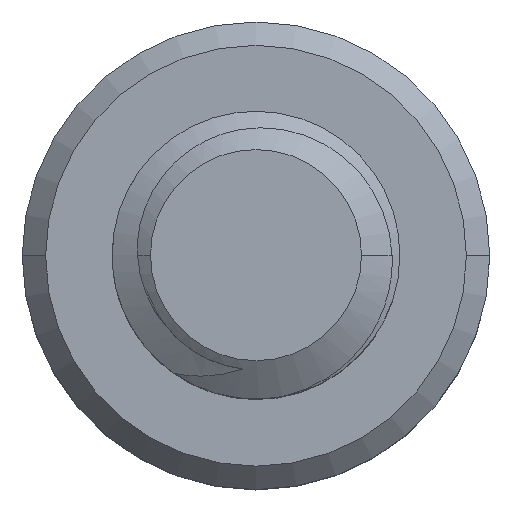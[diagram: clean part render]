
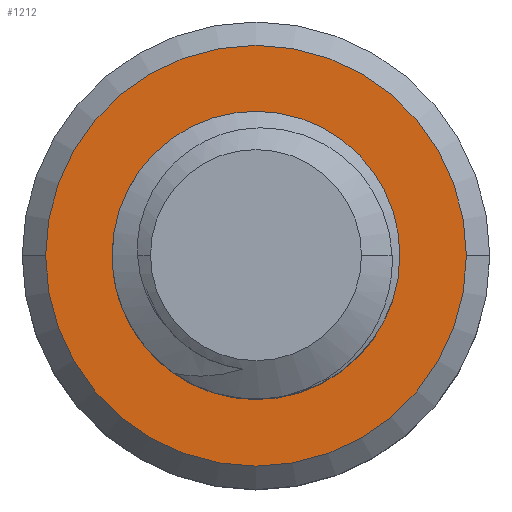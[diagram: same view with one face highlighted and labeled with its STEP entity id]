
A CAD part, top view. The second image highlights one B-rep face of the part: STEP entity #1212.
In plain terms, the highlighted planar face has unit normal (0, 0, 1).
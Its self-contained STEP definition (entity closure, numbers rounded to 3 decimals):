
#3 = VERTEX_POINT ( 'NONE', #1861 ) ;
#20 = CARTESIAN_POINT ( 'NONE',  ( 0., -3.188, -10. ) ) ;
#65 = B_SPLINE_CURVE_WITH_KNOTS ( 'NONE', 3,
 ( #1869, #727, #2756, #1445, #83, #1664, #304, #1880, #1409, #1553, #1607, #1482, #1343, #228, #1356, #2186, #2648, #1999, #2484, #660, #1639, #2447, #2345, #2418, #2379, #2388 ),
 .UNSPECIFIED., .F., .F.,
 ( 4, 2, 2, 2, 2, 2, 2, 2, 2, 2, 2, 2, 4 ),
 ( 0., 0.001, 0.002, 0.003, 0.003, 0.004, 0.005, 0.005, 0.006, 0.006, 0.007, 0.007, 0.009 ),
 .UNSPECIFIED. ) ;
#83 = CARTESIAN_POINT ( 'NONE',  ( 1.688, 3.474, -10. ) ) ;
#198 = ORIENTED_EDGE ( 'NONE', *, *, #740, .T. ) ;
#228 = CARTESIAN_POINT ( 'NONE',  ( 3.439, 0.902, -10. ) ) ;
#236 = PLANE ( 'NONE',  #406 ) ;
#270 = ORIENTED_EDGE ( 'NONE', *, *, #488, .T. ) ;
#304 = CARTESIAN_POINT ( 'NONE',  ( 2.254, 3.038, -10. ) ) ;
#345 = CARTESIAN_POINT ( 'NONE',  ( -3.743, 0.593, -10. ) ) ;
#406 = AXIS2_PLACEMENT_3D ( 'NONE', #1844, #2208, #1545 ) ;
#446 = EDGE_CURVE ( 'NONE', #2197, #1026, #1468, .T. ) ;
#488 = EDGE_CURVE ( 'NONE', #3, #2197, #65, .T. ) ;
#497 = B_SPLINE_CURVE_WITH_KNOTS ( 'NONE', 3,
 ( #20, #1159, #1741, #1713, #1131, #1117, #1068, #1037, #1024, #1704, #1701, #1731, #1730, #2706, #1015, #1532, #1502, #345, #926, #1296, #1279, #1272, #1268, #1261 ),
 .UNSPECIFIED., .F., .F.,
 ( 4, 2, 2, 2, 2, 2, 2, 2, 2, 2, 2, 4 ),
 ( 0., 0.001, 0.002, 0.003, 0.004, 0.004, 0.005, 0.005, 0.006, 0.006, 0.007, 0.009 ),
 .UNSPECIFIED. ) ;
#551 = CIRCLE ( 'NONE', #1103, 4. ) ;
#660 = CARTESIAN_POINT ( 'NONE',  ( 3.321, -0.684, -10. ) ) ;
#727 = CARTESIAN_POINT ( 'NONE',  ( 0.358, 3.972, -10. ) ) ;
#740 = EDGE_CURVE ( 'NONE', #1026, #2622, #497, .T. ) ;
#843 = CARTESIAN_POINT ( 'NONE',  ( 5.85, 0., -10. ) ) ;
#899 = EDGE_CURVE ( 'NONE', #2333, #2066, #1839, .T. ) ;
#926 = CARTESIAN_POINT ( 'NONE',  ( -3.728, 0.769, -10. ) ) ;
#928 = CARTESIAN_POINT ( 'NONE',  ( 0., 0., -10. ) ) ;
#936 = DIRECTION ( 'NONE',  ( 0., 0., -1. ) ) ;
#1015 = CARTESIAN_POINT ( 'NONE',  ( -3.693, -0.295, -10. ) ) ;
#1024 = CARTESIAN_POINT ( 'NONE',  ( -3.086, -1.764, -10. ) ) ;
#1026 = VERTEX_POINT ( 'NONE', #2181 ) ;
#1037 = CARTESIAN_POINT ( 'NONE',  ( -2.98, -1.91, -10. ) ) ;
#1040 = CARTESIAN_POINT ( 'NONE',  ( 0., 0., -10. ) ) ;
#1068 = CARTESIAN_POINT ( 'NONE',  ( -2.629, -2.315, -10. ) ) ;
#1072 = CARTESIAN_POINT ( 'NONE',  ( -2.803, 2.854, -10. ) ) ;
#1083 = AXIS2_PLACEMENT_3D ( 'NONE', #1040, #2609, #1264 ) ;
#1103 = AXIS2_PLACEMENT_3D ( 'NONE', #928, #2497, #1161 ) ;
#1117 = CARTESIAN_POINT ( 'NONE',  ( -2.356, -2.544, -10. ) ) ;
#1131 = CARTESIAN_POINT ( 'NONE',  ( -1.741, -2.912, -10. ) ) ;
#1159 = CARTESIAN_POINT ( 'NONE',  ( -0.358, -3.223, -10. ) ) ;
#1161 = DIRECTION ( 'NONE',  ( 1., 0., 0. ) ) ;
#1192 = CARTESIAN_POINT ( 'NONE',  ( -5.85, 0., -10. ) ) ;
#1212 = ADVANCED_FACE ( 'NONE', ( #2568, #2529 ), #236, .F. ) ;
#1261 = CARTESIAN_POINT ( 'NONE',  ( -2.803, 2.854, -10. ) ) ;
#1264 = DIRECTION ( 'NONE',  ( -1., 0., 0. ) ) ;
#1268 = CARTESIAN_POINT ( 'NONE',  ( -3.036, 2.582, -10. ) ) ;
#1272 = CARTESIAN_POINT ( 'NONE',  ( -3.231, 2.28, -10. ) ) ;
#1279 = CARTESIAN_POINT ( 'NONE',  ( -3.536, 1.64, -10. ) ) ;
#1296 = CARTESIAN_POINT ( 'NONE',  ( -3.644, 1.294, -10. ) ) ;
#1343 = CARTESIAN_POINT ( 'NONE',  ( 3.364, 1.252, -10. ) ) ;
#1356 = CARTESIAN_POINT ( 'NONE',  ( 3.462, 0.724, -10. ) ) ;
#1376 = CARTESIAN_POINT ( 'NONE',  ( 2.234, -2.275, -10. ) ) ;
#1385 = AXIS2_PLACEMENT_3D ( 'NONE', #2342, #1531, #1447 ) ;
#1409 = CARTESIAN_POINT ( 'NONE',  ( 2.623, 2.655, -10. ) ) ;
#1445 = CARTESIAN_POINT ( 'NONE',  ( 1.377, 3.643, -10. ) ) ;
#1447 = DIRECTION ( 'NONE',  ( -1., 0., 0. ) ) ;
#1468 = CIRCLE ( 'NONE', #1595, 3.188 ) ;
#1482 = CARTESIAN_POINT ( 'NONE',  ( 3.314, 1.421, -10. ) ) ;
#1502 = CARTESIAN_POINT ( 'NONE',  ( -3.749, 0.237, -10. ) ) ;
#1531 = DIRECTION ( 'NONE',  ( 0., 0., 1. ) ) ;
#1532 = CARTESIAN_POINT ( 'NONE',  ( -3.739, 0.057, -10. ) ) ;
#1545 = DIRECTION ( 'NONE',  ( -1., 0., 0. ) ) ;
#1553 = CARTESIAN_POINT ( 'NONE',  ( 2.946, 2.232, -10. ) ) ;
#1595 = AXIS2_PLACEMENT_3D ( 'NONE', #2293, #936, #2513 ) ;
#1607 = CARTESIAN_POINT ( 'NONE',  ( 3.125, 1.917, -10. ) ) ;
#1638 = EDGE_CURVE ( 'NONE', #3, #2622, #551, .T. ) ;
#1639 = CARTESIAN_POINT ( 'NONE',  ( 3.263, -0.851, -10. ) ) ;
#1664 = CARTESIAN_POINT ( 'NONE',  ( 2.117, 3.155, -10. ) ) ;
#1701 = CARTESIAN_POINT ( 'NONE',  ( -3.357, -1.307, -10. ) ) ;
#1704 = CARTESIAN_POINT ( 'NONE',  ( -3.274, -1.464, -10. ) ) ;
#1713 = CARTESIAN_POINT ( 'NONE',  ( -1.413, -3.044, -10. ) ) ;
#1730 = CARTESIAN_POINT ( 'NONE',  ( -3.562, -0.811, -10. ) ) ;
#1731 = CARTESIAN_POINT ( 'NONE',  ( -3.502, -0.981, -10. ) ) ;
#1741 = CARTESIAN_POINT ( 'NONE',  ( -0.712, -3.201, -10. ) ) ;
#1839 = CIRCLE ( 'NONE', #1385, 5.85 ) ;
#1844 = CARTESIAN_POINT ( 'NONE',  ( 0., 0., -10. ) ) ;
#1861 = CARTESIAN_POINT ( 'NONE',  ( 0., 4., -10. ) ) ;
#1869 = CARTESIAN_POINT ( 'NONE',  ( 0., 4., -10. ) ) ;
#1880 = CARTESIAN_POINT ( 'NONE',  ( 2.506, 2.788, -10. ) ) ;
#1881 = ORIENTED_EDGE ( 'NONE', *, *, #899, .T. ) ;
#1934 = CIRCLE ( 'NONE', #1083, 5.85 ) ;
#1999 = CARTESIAN_POINT ( 'NONE',  ( 3.443, -0.162, -10. ) ) ;
#2065 = ORIENTED_EDGE ( 'NONE', *, *, #446, .T. ) ;
#2066 = VERTEX_POINT ( 'NONE', #843 ) ;
#2160 = EDGE_LOOP ( 'NONE', ( #2540, #270, #2065, #198 ) ) ;
#2181 = CARTESIAN_POINT ( 'NONE',  ( 0., -3.188, -10. ) ) ;
#2186 = CARTESIAN_POINT ( 'NONE',  ( 3.482, 0.37, -10. ) ) ;
#2197 = VERTEX_POINT ( 'NONE', #1376 ) ;
#2208 = DIRECTION ( 'NONE',  ( 0., 0., -1. ) ) ;
#2238 = ORIENTED_EDGE ( 'NONE', *, *, #2492, .T. ) ;
#2293 = CARTESIAN_POINT ( 'NONE',  ( 0., 0., -10. ) ) ;
#2333 = VERTEX_POINT ( 'NONE', #1192 ) ;
#2342 = CARTESIAN_POINT ( 'NONE',  ( 0., 0., -10. ) ) ;
#2345 = CARTESIAN_POINT ( 'NONE',  ( 3.037, -1.337, -10. ) ) ;
#2379 = CARTESIAN_POINT ( 'NONE',  ( 2.517, -2.052, -10. ) ) ;
#2388 = CARTESIAN_POINT ( 'NONE',  ( 2.234, -2.275, -10. ) ) ;
#2407 = EDGE_LOOP ( 'NONE', ( #1881, #2238 ) ) ;
#2418 = CARTESIAN_POINT ( 'NONE',  ( 2.751, -1.788, -10. ) ) ;
#2447 = CARTESIAN_POINT ( 'NONE',  ( 3.121, -1.177, -10. ) ) ;
#2484 = CARTESIAN_POINT ( 'NONE',  ( 3.411, -0.34, -10. ) ) ;
#2492 = EDGE_CURVE ( 'NONE', #2066, #2333, #1934, .T. ) ;
#2497 = DIRECTION ( 'NONE',  ( 0., 0., 1. ) ) ;
#2513 = DIRECTION ( 'NONE',  ( 1., 0., 0. ) ) ;
#2529 = FACE_BOUND ( 'NONE', #2160, .T. ) ;
#2540 = ORIENTED_EDGE ( 'NONE', *, *, #1638, .F. ) ;
#2568 = FACE_OUTER_BOUND ( 'NONE', #2407, .T. ) ;
#2609 = DIRECTION ( 'NONE',  ( 0., 0., 1. ) ) ;
#2622 = VERTEX_POINT ( 'NONE', #1072 ) ;
#2648 = CARTESIAN_POINT ( 'NONE',  ( 3.478, 0.193, -10. ) ) ;
#2706 = CARTESIAN_POINT ( 'NONE',  ( -3.658, -0.469, -10. ) ) ;
#2756 = CARTESIAN_POINT ( 'NONE',  ( 0.705, 3.895, -10. ) ) ;
